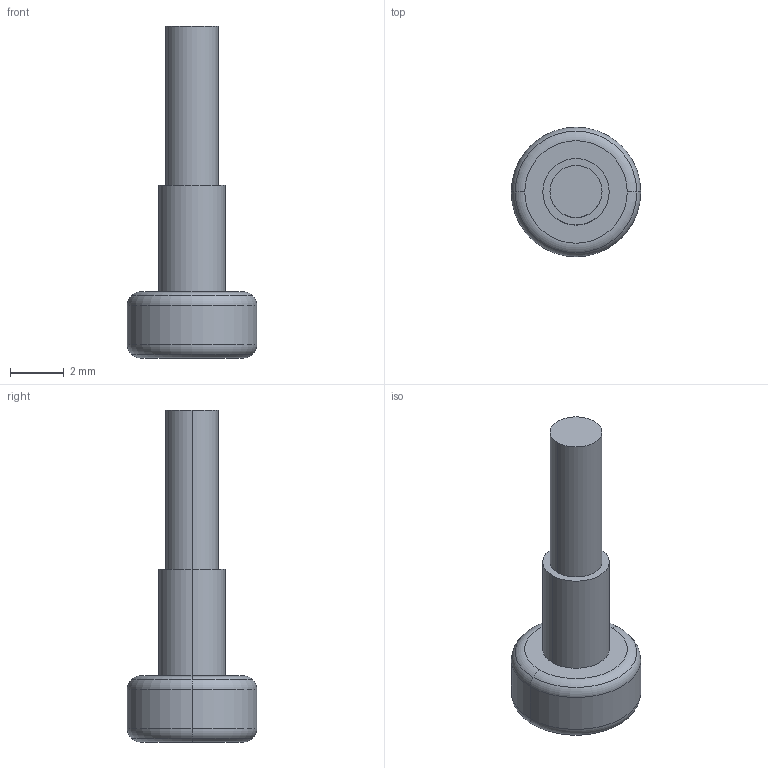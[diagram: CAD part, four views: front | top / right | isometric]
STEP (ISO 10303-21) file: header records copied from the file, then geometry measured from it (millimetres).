
FILE_DESCRIPTION((''),'2;1');
FILE_NAME('M2X2_5X20_SHSS_MACHINE_SCREW_-_','2024-05-15T17:20:54',('qinghui.yi'),(''),'CREO PARAMETRIC BY PTC INC, 2019164','CREO PARAMETRIC BY PTC INC, 2019164','');
FILE_SCHEMA(('CONFIG_CONTROL_DESIGN','SHAPE_APPEARANCE_LAYERS_GROUPS'));
Length unit declared in the file: millimetre
Products named in the file (1): M2X2_5X20_SHSS_MACHINE_SCREW_-_
Bounding box: 4.8 x 4.8 x 12.3 mm (x, y, z)
Volume: 74.9 mm3; surface area: 140.5 mm2
Topology: 1 solids, 1 shells, 25 faces, 55 edges, 38 vertices
Faces by surface type: plane 11, torus 8, cylinder 6
Entity records: 1234 total; most frequent: COLOUR_RGB 313, DIRECTION 135, CARTESIAN_POINT 113, ORIENTED_EDGE 104, PRESENTATION_STYLE_ASSIGNMENT 57, STYLED_ITEM 57, CURVE_STYLE 56, AXIS2_PLACEMENT_3D 54
